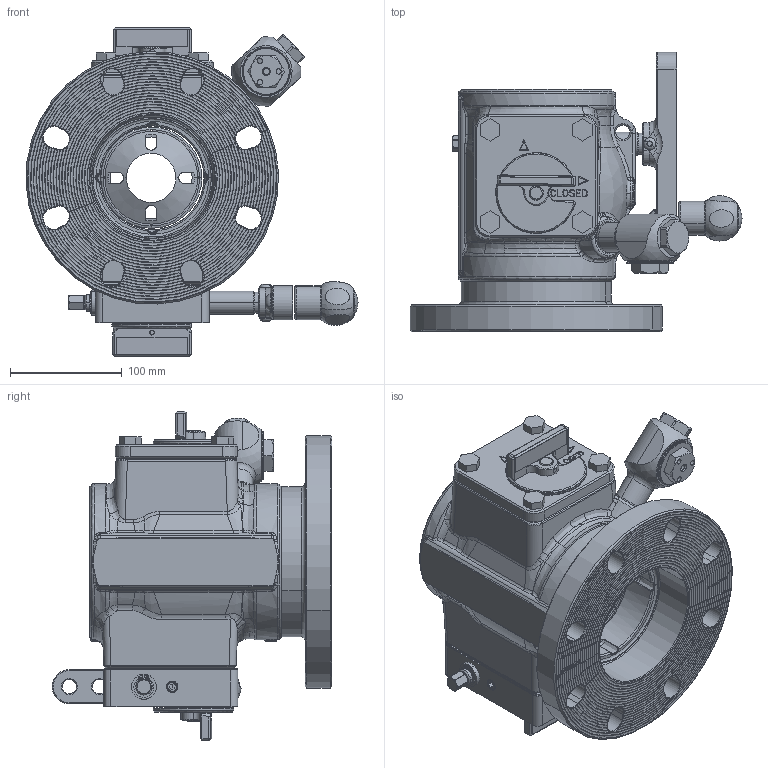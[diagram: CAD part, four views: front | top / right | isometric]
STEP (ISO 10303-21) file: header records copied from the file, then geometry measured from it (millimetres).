
FILE_DESCRIPTION (( 'STEP AP203' ), '1' );
FILE_NAME ('ZAADX.STEP', '2014-11-12T19:44:30', ( '' ), ( '' ), 'SwSTEP 2.0', 'SolidWorks 2014', '' );
FILE_SCHEMA (( 'CONFIG_CONTROL_DESIGN' ));
Length unit declared in the file: inch
Products named in the file (1): ZAADX
Bounding box: 296.98 x 249.99 x 294.74 mm (x, y, z)
Surface area: 423739.2 mm2 (no closed solid volume)
Topology: 0 solids, 133 shells, 1700 faces, 7479 edges, 5820 vertices
Faces by surface type: plane 536, torus 334, cylinder 302, bspline 280, cone 231, sphere 17
Entity records: 105636 total; most frequent: CARTESIAN_POINT 50933, ORIENTED_EDGE 11034, DIRECTION 9344, EDGE_CURVE 7455, VERTEX_POINT 5818, VECTOR 3422, LINE 3422, AXIS2_PLACEMENT_3D 2961
